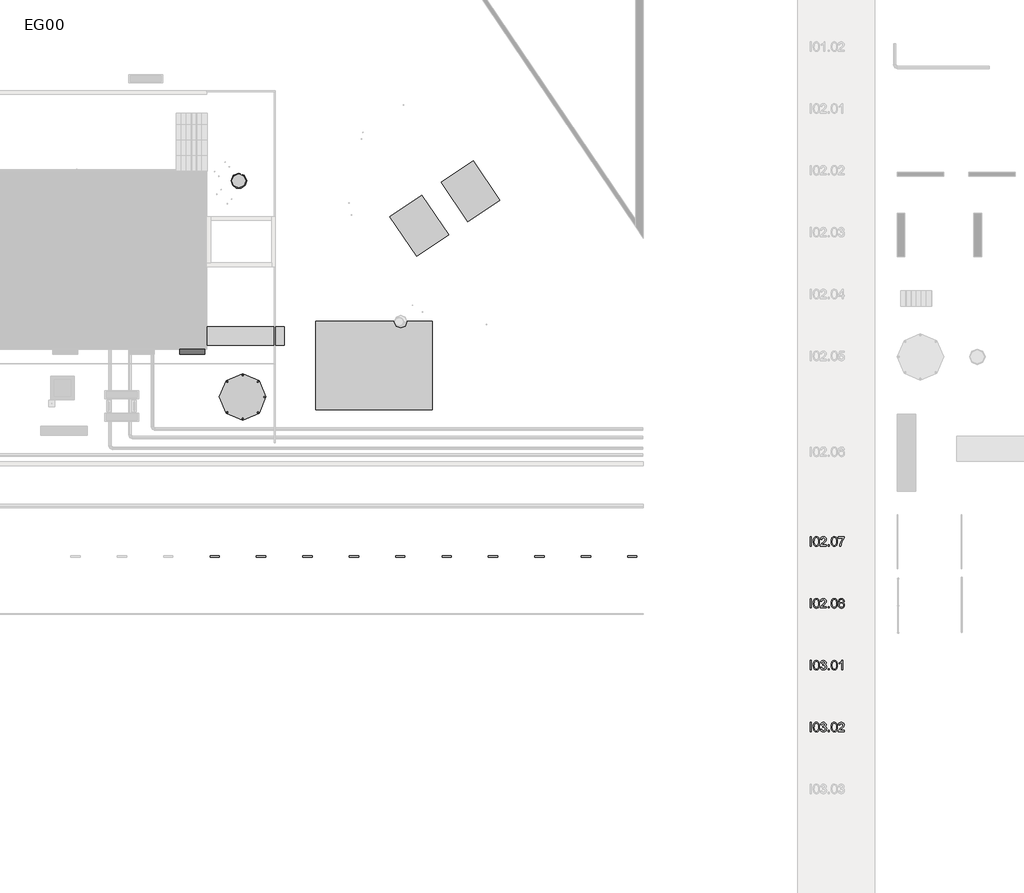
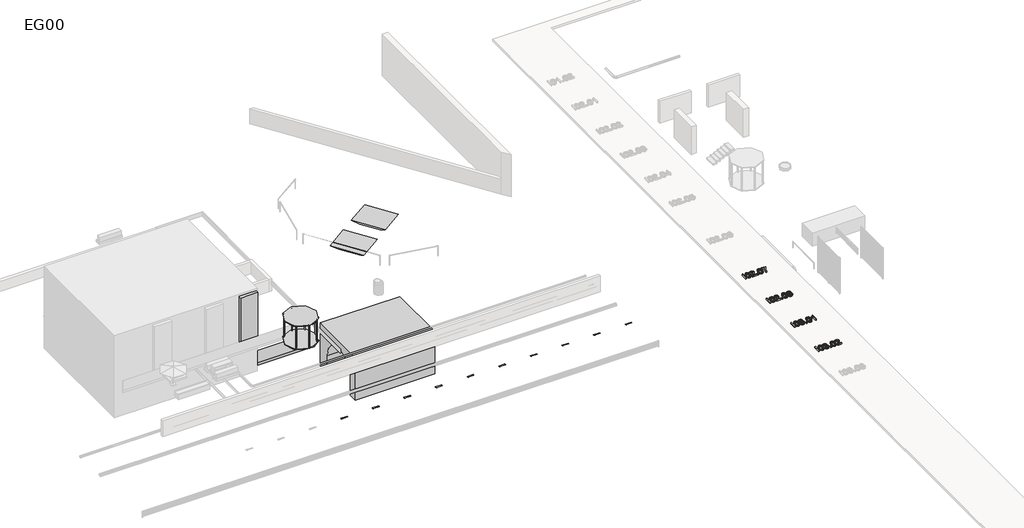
# One storey, part 9 of 11: 20 proxies, 1 geographic element.
"""IFC4 building model written with IfcOpenShell, lengths in millimetres."""

from ifc_helpers import new_model, si_unit, origin, origin_with_axes, place, context, project, spatial, polyline, outline, extrude, transform, mapped, element, save
from components import generic_models_e3d74de6, entourage_0a1c0cec, generic_models_ad2ae4fc, generic_models_97552da3, generic_models_fbec03f0, entourage_9fdb578f, geographic_element_9d9cddf6

model = new_model("IFC4")

# Units and contexts
model_context = context("Model", 3, world=origin())
ifc_project = project(units=[si_unit("LENGTHUNIT", "METRE", prefix="MILLI")], contexts=[model_context])

# Site, building, storey
site = spatial("IfcSite", under=ifc_project)
building = spatial("IfcBuilding", under=site)
storey = spatial("IfcBuildingStorey", under=building, Name="EG00", Elevation=0.0)

# Proxies
placement = place(None, origin())
generic_models_shape = generic_models_e3d74de6(model_context)
element("IfcBuildingElementProxy", 1, Name="Auffüllung : Auffüllung", ObjectType="Auffüllung : Auffüllung", at=placement, inside=storey, context=model_context, shape_type="MappedRepresentation", body=[
    mapped(generic_models_shape, transform((15651.6474378, -11344.4656906, 0.0), x_axis=(0.8290375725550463, 0.55919290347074, 0.0), y_axis=(-0.55919290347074, 0.8290375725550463, 0.0), z_axis=(0.0, 0.0, 1.0))),
])
element("IfcBuildingElementProxy", 2, Name="Auffüllung : Auffüllung", ObjectType="Auffüllung : Auffüllung", at=placement, inside=storey, context=model_context, shape_type="MappedRepresentation", body=[
    mapped(generic_models_shape, transform((18967.797728, -9107.6940768, 0.0), x_axis=(0.8290375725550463, 0.55919290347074, 0.0), y_axis=(-0.55919290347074, 0.8290375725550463, 0.0), z_axis=(0.0, 0.0, 1.0))),
])
entourage_shape = entourage_0a1c0cec(model_context)
element("IfcBuildingElementProxy", 3, Name="Pavillon, Unterstand, Schuppen und dgl. : Pavillon, Unterstand, Schuppen und dgl.", ObjectType="Pavillon, Unterstand, Schuppen und dgl. : Pavillon, Unterstand, Schuppen und dgl.", at=placement, inside=storey, context=model_context, shape_type="MappedRepresentation", body=[
    mapped(entourage_shape, transform((4395.2462772, -20427.6172052, 1020.0), x_axis=(1.0, 0.0, 0.0), y_axis=(0.0, 1.0, 0.0), z_axis=(0.0, 0.0, 1.0))),
])
generic_models_2_shape = generic_models_ad2ae4fc(model_context)
element("IfcBuildingElementProxy", 4, Name="Wasserbecken : Wasserbecken", ObjectType="Wasserbecken : Wasserbecken", at=placement, inside=storey, context=model_context, shape_type="MappedRepresentation", body=[
    mapped(generic_models_2_shape, transform((4153.1107384, -6458.9886736, 984.6257825), x_axis=(1.0, 0.0, 0.0), y_axis=(0.0, 1.0, 0.0), z_axis=(0.0, 0.0, 1.0))),
])
generic_models_3_shape = generic_models_97552da3(model_context)
element("IfcBuildingElementProxy", 5, Name="Stollen : Stollen", ObjectType="Stollen : Stollen", at=placement, inside=storey, context=model_context, shape_type="MappedRepresentation", body=[
    mapped(generic_models_3_shape, transform((16653.2462772, -21266.9886736, 0.0), x_axis=(1.0, 0.0, 0.0), y_axis=(0.0, 1.0, 0.0), z_axis=(0.0, 0.0, 1.0))),
])
generic_models_4_shape = generic_models_fbec03f0(model_context)
element("IfcBuildingElementProxy", 6, Name="Fluchtröhre : Fluchtröhre", ObjectType="Fluchtröhre : Fluchtröhre", at=placement, inside=storey, context=model_context, shape_type="MappedRepresentation", body=[
    mapped(generic_models_4_shape, transform((7773.9710847, -16470.697095, 1000.0), x_axis=(0.0, -1.0, 0.0), y_axis=(1.0, 0.0, 0.0), z_axis=(0.0, 0.0, 1.0))),
])
entourage_2_shape = entourage_9fdb578f(model_context)
element("IfcBuildingElementProxy", 7, Name="Bodenmarkierung : Belagsmarkierung", ObjectType="Bodenmarkierung : Belagsmarkierung", at=placement, inside=storey, context=model_context, shape_type="MappedRepresentation", body=[
    mapped(entourage_2_shape, transform((2591.2462772, -30730.6172052, -9.0), x_axis=(1.0, 0.0, 0.0), y_axis=(0.0, 1.0, 0.0), z_axis=(0.0, 0.0, 1.0))),
])
element("IfcBuildingElementProxy", 8, Name="Bodenmarkierung : Belagsmarkierung", ObjectType="Bodenmarkierung : Belagsmarkierung", at=placement, inside=storey, context=model_context, shape_type="MappedRepresentation", body=[
    mapped(entourage_2_shape, transform((5591.2462772, -30730.6172052, -9.0), x_axis=(1.0, 0.0, 0.0), y_axis=(0.0, 1.0, 0.0), z_axis=(0.0, 0.0, 1.0))),
])
element("IfcBuildingElementProxy", 9, Name="Bodenmarkierung : Belagsmarkierung", ObjectType="Bodenmarkierung : Belagsmarkierung", at=placement, inside=storey, context=model_context, shape_type="MappedRepresentation", body=[
    mapped(entourage_2_shape, transform((8591.2462772, -30730.6172052, -9.0), x_axis=(1.0, 0.0, 0.0), y_axis=(0.0, 1.0, 0.0), z_axis=(0.0, 0.0, 1.0))),
])
element("IfcBuildingElementProxy", 10, Name="Bodenmarkierung : Belagsmarkierung", ObjectType="Bodenmarkierung : Belagsmarkierung", at=placement, inside=storey, context=model_context, shape_type="MappedRepresentation", body=[
    mapped(entourage_2_shape, transform((11591.2462772, -30730.6172052, -9.0), x_axis=(1.0, 0.0, 0.0), y_axis=(0.0, 1.0, 0.0), z_axis=(0.0, 0.0, 1.0))),
])
element("IfcBuildingElementProxy", 11, Name="Bodenmarkierung : Belagsmarkierung", ObjectType="Bodenmarkierung : Belagsmarkierung", at=placement, inside=storey, context=model_context, shape_type="MappedRepresentation", body=[
    mapped(entourage_2_shape, transform((14591.2462772, -30730.6172052, -9.0), x_axis=(1.0, 0.0, 0.0), y_axis=(0.0, 1.0, 0.0), z_axis=(0.0, 0.0, 1.0))),
])
element("IfcBuildingElementProxy", 12, Name="Bodenmarkierung : Belagsmarkierung", ObjectType="Bodenmarkierung : Belagsmarkierung", at=placement, inside=storey, context=model_context, shape_type="MappedRepresentation", body=[
    mapped(entourage_2_shape, transform((17591.2462772, -30730.6172052, -9.0), x_axis=(1.0, 0.0, 0.0), y_axis=(0.0, 1.0, 0.0), z_axis=(0.0, 0.0, 1.0))),
])
element("IfcBuildingElementProxy", 13, Name="Bodenmarkierung : Belagsmarkierung", ObjectType="Bodenmarkierung : Belagsmarkierung", at=placement, inside=storey, context=model_context, shape_type="MappedRepresentation", body=[
    mapped(entourage_2_shape, transform((20591.2462772, -30730.6172052, -9.0), x_axis=(1.0, 0.0, 0.0), y_axis=(0.0, 1.0, 0.0), z_axis=(0.0, 0.0, 1.0))),
])
element("IfcBuildingElementProxy", 14, Name="Bodenmarkierung : Belagsmarkierung", ObjectType="Bodenmarkierung : Belagsmarkierung", at=placement, inside=storey, context=model_context, shape_type="MappedRepresentation", body=[
    mapped(entourage_2_shape, transform((23591.2462772, -30730.6172052, -9.0), x_axis=(1.0, 0.0, 0.0), y_axis=(0.0, 1.0, 0.0), z_axis=(0.0, 0.0, 1.0))),
])
element("IfcBuildingElementProxy", 15, Name="Bodenmarkierung : Belagsmarkierung", ObjectType="Bodenmarkierung : Belagsmarkierung", at=placement, inside=storey, context=model_context, shape_type="MappedRepresentation", body=[
    mapped(entourage_2_shape, transform((26591.2462772, -30730.6172052, -9.0), x_axis=(1.0, 0.0, 0.0), y_axis=(0.0, 1.0, 0.0), z_axis=(0.0, 0.0, 1.0))),
])
element("IfcBuildingElementProxy", 16, Name="Bodenmarkierung : Belagsmarkierung", ObjectType="Bodenmarkierung : Belagsmarkierung", at=placement, inside=storey, context=model_context, shape_type="MappedRepresentation", body=[
    mapped(entourage_2_shape, transform((29591.2462772, -30730.6172052, -9.0), x_axis=(1.0, 0.0, 0.0), y_axis=(0.0, 1.0, 0.0), z_axis=(0.0, 0.0, 1.0))),
])
element("IfcBuildingElementProxy", 17, Name="600mm Arial", ObjectType="600mm Arial", at=placement, inside=storey, context=model_context, shape_type="SweptSolid", body=[
    extrude(outline(polyline([(41098.4530284, -30070.0529019), (41098.4530284, -29467.315041), (41173.795261, -29467.315041), (41173.795261, -30070.0529019), (41098.4530284, -30070.0529019)])), origin_with_axes(), (0.0, 0.0, 1.0), 150.0),
    extrude(outline(polyline([(41296.226389, -29773.5400137), (41301.763013, -29677.0629605), (41308.6837931, -29636.1498841), (41318.3728851, -29600.1204412), (41330.7889025, -29568.6803262), (41345.8904584, -29541.5352335), (41363.6775528, -29518.6851631), (41384.1501859, -29500.1301149), (41407.3773353, -29485.7735201), (41433.4279791, -29475.5188095), (41462.3021172, -29469.3659831), (41493.9997496, -29467.315041), (41540.4264574, -29472.1710833), (41581.9971229, -29486.7392103), (41616.7619714, -29510.4492049), (41642.7712285, -29542.73085), (41662.416127, -29583.308234), (41678.0879, -29631.9054456), (41688.3518077, -29693.6176503), (41691.7731102, -29773.5400137), (41686.2916685, -29869.465244), (41679.4398663, -29910.2403646), (41669.8473433, -29946.2238223), (41657.527895, -29977.6777329), (41642.495317, -30004.8642123), (41624.7496092, -30027.7832606), (41604.2907718, -30046.4348778), (41581.0360312, -30060.8880417), (41554.9026139, -30071.2117301), (41525.8905201, -30077.4059432), (41493.9997496, -30079.4706809), (41452.5026606, -30075.8838315), (41415.7144611, -30065.1232831), (41383.6351511, -30047.1890359), (41356.2647306, -30022.0810897), (41329.9979562, -29976.6936485), (41311.2359744, -29920.1409888), (41299.9787854, -29852.4231106), (41296.226389, -29773.5400137)]), holes=[polyline([(41371.5686216, -29773.3928609), (41373.7759136, -29838.8896517), (41380.3977895, -29891.9060457), (41391.4342494, -29932.442043), (41406.8852932, -29960.4976437), (41425.5736985, -29979.5861207), (41446.3222431, -29993.2207472), (41469.1309268, -30001.401523), (41493.9997496, -30004.1284483), (41518.8685725, -30001.392326), (41541.6772562, -29993.183959), (41562.4258007, -29979.5033473), (41581.1142061, -29960.3504909), (41596.5652499, -29932.248905), (41607.6017097, -29891.7221047), (41614.2235857, -29838.77009), (41616.4308776, -29773.3928609), (41614.2971621, -29709.6297141), (41607.8960153, -29657.5468207), (41597.2274375, -29617.1441805), (41582.2914285, -29588.4217938), (41563.9157228, -29568.3998162), (41542.928055, -29554.0984036), (41519.328425, -29545.5175561), (41493.1168328, -29542.6572736), (41468.3767687, -29545.1772652), (41445.9543611, -29552.7372402), (41425.84961, -29565.3371986), (41408.0625156, -29582.9771402), (41392.096437, -29614.2471098), (41380.6920951, -29656.4063865), (41373.84949, -29709.4549702), (41371.5686216, -29773.3928609)])]), origin_with_axes(), (0.0, 0.0, 1.0), 150.0),
    extrude(outline(polyline([(42143.8265059, -29994.7106692), (42143.8265059, -30070.0529019), (41748.2797847, -30070.0529019), (41749.9352537, -30043.52861), (41756.3731886, -30018.1079641), (41774.9512293, -29977.512186), (41802.1377088, -29938.1304184), (41841.4642941, -29896.9092408), (41896.4626524, -29850.7952327), (41977.7645733, -29778.5799971), (42026.5457258, -29725.273896), (42040.773562, -29703.4952819), (42050.9363021, -29682.0109733), (42057.0339462, -29660.8209704), (42059.0664942, -29639.9252731), (42057.1489093, -29620.266579), (42051.3961546, -29602.1989745), (42041.8082301, -29585.7224596), (42028.3851358, -29570.8370344), (42011.8718328, -29558.508389), (41993.013282, -29549.7022138), (41971.8094835, -29544.4185086), (41948.2604373, -29542.6572736), (41923.4513952, -29544.3771219), (41901.2635124, -29549.5366669), (41881.6967888, -29558.1359085), (41864.7512244, -29570.1748468), (41851.0430215, -29585.2488116), (41841.1883826, -29602.9531326), (41835.1873075, -29623.2878099), (41833.0397964, -29646.2528434), (41757.6975638, -29636.8350643), (41764.1768854, -29597.9407404), (41775.9629048, -29563.9576411), (41793.055622, -29534.8857664), (41815.455037, -29510.7251164), (41842.646115, -29491.7332084), (41874.1138211, -29478.1675598), (41909.8581555, -29470.0281707), (41949.8791181, -29467.315041), (41990.2587655, -29470.3316733), (42026.1962379, -29479.3815704), (42057.6915353, -29494.4647322), (42084.7446575, -29515.5811587), (42106.4726878, -29541.1673515), (42121.9927095, -29569.659812), (42131.3047225, -29601.0585403), (42134.4087268, -29635.3635364), (42131.0610007, -29671.3975778), (42121.0178222, -29706.8062198), (42103.1939395, -29742.8218672), (42076.5041008, -29780.6769245), (42033.958548, -29825.8712276), (41968.5675234, -29883.9046123), (41881.8945253, -29956.3773654), (41847.902229, -29994.7106692), (42143.8265059, -29994.7106692)])), origin_with_axes(), (0.0, 0.0, 1.0), 150.0),
    extrude(outline(polyline([(42256.8398548, -30070.0529019), (42256.8398548, -29994.7106692), (42332.1820874, -29994.7106692), (42332.1820874, -30070.0529019), (42256.8398548, -30070.0529019)])), origin_with_axes(), (0.0, 0.0, 1.0), 150.0),
    extrude(outline(polyline([(42454.6132154, -29773.5400137), (42460.1498395, -29677.0629605), (42467.0706195, -29636.1498841), (42476.7597115, -29600.1204412), (42489.1757289, -29568.6803262), (42504.2772848, -29541.5352335), (42522.0643792, -29518.6851631), (42542.5370123, -29500.1301149), (42565.7641618, -29485.7735201), (42591.8148055, -29475.5188095), (42620.6889436, -29469.3659831), (42652.386576, -29467.315041), (42698.8132838, -29472.1710833), (42740.3839493, -29486.7392103), (42775.1487978, -29510.4492049), (42801.1580549, -29542.73085), (42820.8029534, -29583.308234), (42836.4747264, -29631.9054456), (42846.7386341, -29693.6176503), (42850.1599366, -29773.5400137), (42844.6784949, -29869.465244), (42837.8266928, -29910.2403646), (42828.2341697, -29946.2238223), (42815.9147214, -29977.6777329), (42800.8821434, -30004.8642123), (42783.1364357, -30027.7832606), (42762.6775982, -30046.4348778), (42739.4228576, -30060.8880417), (42713.2894403, -30071.2117301), (42684.2773465, -30077.4059432), (42652.386576, -30079.4706809), (42610.889487, -30075.8838315), (42574.1012875, -30065.1232831), (42542.0219775, -30047.1890359), (42514.651557, -30022.0810897), (42488.3847826, -29976.6936485), (42469.6228008, -29920.1409888), (42458.3656118, -29852.4231106), (42454.6132154, -29773.5400137)]), holes=[polyline([(42529.955448, -29773.3928609), (42532.16274, -29838.8896517), (42538.7846159, -29891.9060457), (42549.8210758, -29932.442043), (42565.2721196, -29960.4976437), (42583.9605249, -29979.5861207), (42604.7090695, -29993.2207472), (42627.5177532, -30001.401523), (42652.386576, -30004.1284483), (42677.2553989, -30001.392326), (42700.0640826, -29993.183959), (42720.8126271, -29979.5033473), (42739.5010325, -29960.3504909), (42754.9520763, -29932.248905), (42765.9885362, -29891.7221047), (42772.6104121, -29838.77009), (42774.817704, -29773.3928609), (42772.6839885, -29709.6297141), (42766.2828417, -29657.5468207), (42755.6142639, -29617.1441805), (42740.6782549, -29588.4217938), (42722.3025492, -29568.3998162), (42701.3148814, -29554.0984036), (42677.7152514, -29545.5175561), (42651.5036593, -29542.6572736), (42626.7635951, -29545.1772652), (42604.3411875, -29552.7372402), (42584.2364364, -29565.3371986), (42566.449342, -29582.9771402), (42550.4832634, -29614.2471098), (42539.0789215, -29656.4063865), (42532.2363164, -29709.4549702), (42529.955448, -29773.3928609)])]), origin_with_axes(), (0.0, 0.0, 1.0), 150.0),
    extrude(outline(polyline([(42916.0843902, -29552.0750527), (42916.0843902, -29476.73282), (43311.6311114, -29476.73282), (43311.6311114, -29537.6540784), (43255.2531956, -29609.0047914), (43199.4271029, -29699.7428855), (43150.1860978, -29801.5910159), (43130.2974774, -29853.5773403), (43113.5634452, -29906.2718376), (43095.6108038, -29984.5939144), (43085.6044136, -30070.0529019), (43010.2621809, -30070.0529019), (43018.4107671, -29992.3930127), (43040.2077754, -29900.0914201), (43056.0772849, -29850.7262549), (43075.0645944, -29802.2532035), (43097.1697038, -29754.6722659), (43122.3926131, -29707.9834422), (43177.6484888, -29622.763578), (43236.2888788, -29552.0750527), (42916.0843902, -29552.0750527)])), origin_with_axes(), (0.0, 0.0, 1.0), 150.0),
])
element("IfcBuildingElementProxy", 18, Name="600mm Arial", ObjectType="600mm Arial", at=placement, inside=storey, context=model_context, shape_type="SweptSolid", body=[
    extrude(outline(polyline([(41098.4530284, -34070.0529019), (41098.4530284, -33467.315041), (41173.795261, -33467.315041), (41173.795261, -34070.0529019), (41098.4530284, -34070.0529019)])), origin_with_axes(), (0.0, 0.0, 1.0), 150.0),
    extrude(outline(polyline([(41296.226389, -33773.5400137), (41301.763013, -33677.0629605), (41308.6837931, -33636.1498841), (41318.3728851, -33600.1204412), (41330.7889025, -33568.6803262), (41345.8904584, -33541.5352335), (41363.6775528, -33518.6851631), (41384.1501859, -33500.1301149), (41407.3773353, -33485.7735201), (41433.4279791, -33475.5188095), (41462.3021172, -33469.3659831), (41493.9997496, -33467.315041), (41540.4264574, -33472.1710833), (41581.9971229, -33486.7392103), (41616.7619714, -33510.4492049), (41642.7712285, -33542.73085), (41662.416127, -33583.308234), (41678.0879, -33631.9054456), (41688.3518077, -33693.6176503), (41691.7731102, -33773.5400137), (41686.2916685, -33869.465244), (41679.4398663, -33910.2403646), (41669.8473433, -33946.2238223), (41657.527895, -33977.6777329), (41642.495317, -34004.8642123), (41624.7496092, -34027.7832606), (41604.2907718, -34046.4348778), (41581.0360312, -34060.8880417), (41554.9026139, -34071.2117301), (41525.8905201, -34077.4059432), (41493.9997496, -34079.4706809), (41452.5026606, -34075.8838315), (41415.7144611, -34065.1232831), (41383.6351511, -34047.1890359), (41356.2647306, -34022.0810897), (41329.9979562, -33976.6936485), (41311.2359744, -33920.1409888), (41299.9787854, -33852.4231106), (41296.226389, -33773.5400137)]), holes=[polyline([(41371.5686216, -33773.3928609), (41373.7759136, -33838.8896517), (41380.3977895, -33891.9060457), (41391.4342494, -33932.442043), (41406.8852932, -33960.4976437), (41425.5736985, -33979.5861207), (41446.3222431, -33993.2207472), (41469.1309268, -34001.401523), (41493.9997496, -34004.1284483), (41518.8685725, -34001.392326), (41541.6772562, -33993.183959), (41562.4258007, -33979.5033473), (41581.1142061, -33960.3504909), (41596.5652499, -33932.248905), (41607.6017097, -33891.7221047), (41614.2235857, -33838.77009), (41616.4308776, -33773.3928609), (41614.2971621, -33709.6297141), (41607.8960153, -33657.5468207), (41597.2274375, -33617.1441805), (41582.2914285, -33588.4217938), (41563.9157228, -33568.3998162), (41542.928055, -33554.0984036), (41519.328425, -33545.5175561), (41493.1168328, -33542.6572736), (41468.3767687, -33545.1772652), (41445.9543611, -33552.7372402), (41425.84961, -33565.3371986), (41408.0625156, -33582.9771402), (41392.096437, -33614.2471098), (41380.6920951, -33656.4063865), (41373.84949, -33709.4549702), (41371.5686216, -33773.3928609)])]), origin_with_axes(), (0.0, 0.0, 1.0), 150.0),
    extrude(outline(polyline([(42143.8265059, -33994.7106692), (42143.8265059, -34070.0529019), (41748.2797847, -34070.0529019), (41749.9352537, -34043.52861), (41756.3731886, -34018.1079641), (41774.9512293, -33977.512186), (41802.1377088, -33938.1304184), (41841.4642941, -33896.9092408), (41896.4626524, -33850.7952327), (41977.7645733, -33778.5799971), (42026.5457258, -33725.273896), (42040.773562, -33703.4952819), (42050.9363021, -33682.0109733), (42057.0339462, -33660.8209704), (42059.0664942, -33639.9252731), (42057.1489093, -33620.266579), (42051.3961546, -33602.1989745), (42041.8082301, -33585.7224596), (42028.3851358, -33570.8370344), (42011.8718328, -33558.508389), (41993.013282, -33549.7022138), (41971.8094835, -33544.4185086), (41948.2604373, -33542.6572736), (41923.4513952, -33544.3771219), (41901.2635124, -33549.5366669), (41881.6967888, -33558.1359085), (41864.7512244, -33570.1748468), (41851.0430215, -33585.2488116), (41841.1883826, -33602.9531326), (41835.1873075, -33623.2878099), (41833.0397964, -33646.2528434), (41757.6975638, -33636.8350643), (41764.1768854, -33597.9407404), (41775.9629048, -33563.9576411), (41793.055622, -33534.8857664), (41815.455037, -33510.7251164), (41842.646115, -33491.7332084), (41874.1138211, -33478.1675598), (41909.8581555, -33470.0281707), (41949.8791181, -33467.315041), (41990.2587655, -33470.3316733), (42026.1962379, -33479.3815704), (42057.6915353, -33494.4647322), (42084.7446575, -33515.5811587), (42106.4726878, -33541.1673515), (42121.9927095, -33569.659812), (42131.3047225, -33601.0585403), (42134.4087268, -33635.3635364), (42131.0610007, -33671.3975778), (42121.0178222, -33706.8062198), (42103.1939395, -33742.8218672), (42076.5041008, -33780.6769245), (42033.958548, -33825.8712276), (41968.5675234, -33883.9046123), (41881.8945253, -33956.3773654), (41847.902229, -33994.7106692), (42143.8265059, -33994.7106692)])), origin_with_axes(), (0.0, 0.0, 1.0), 150.0),
    extrude(outline(polyline([(42256.8398548, -34070.0529019), (42256.8398548, -33994.7106692), (42332.1820874, -33994.7106692), (42332.1820874, -34070.0529019), (42256.8398548, -34070.0529019)])), origin_with_axes(), (0.0, 0.0, 1.0), 150.0),
    extrude(outline(polyline([(42454.6132154, -33773.5400137), (42460.1498395, -33677.0629605), (42467.0706195, -33636.1498841), (42476.7597115, -33600.1204412), (42489.1757289, -33568.6803262), (42504.2772848, -33541.5352335), (42522.0643792, -33518.6851631), (42542.5370123, -33500.1301149), (42565.7641618, -33485.7735201), (42591.8148055, -33475.5188095), (42620.6889436, -33469.3659831), (42652.386576, -33467.315041), (42698.8132838, -33472.1710833), (42740.3839493, -33486.7392103), (42775.1487978, -33510.4492049), (42801.1580549, -33542.73085), (42820.8029534, -33583.308234), (42836.4747264, -33631.9054456), (42846.7386341, -33693.6176503), (42850.1599366, -33773.5400137), (42844.6784949, -33869.465244), (42837.8266928, -33910.2403646), (42828.2341697, -33946.2238223), (42815.9147214, -33977.6777329), (42800.8821434, -34004.8642123), (42783.1364357, -34027.7832606), (42762.6775982, -34046.4348778), (42739.4228576, -34060.8880417), (42713.2894403, -34071.2117301), (42684.2773465, -34077.4059432), (42652.386576, -34079.4706809), (42610.889487, -34075.8838315), (42574.1012875, -34065.1232831), (42542.0219775, -34047.1890359), (42514.651557, -34022.0810897), (42488.3847826, -33976.6936485), (42469.6228008, -33920.1409888), (42458.3656118, -33852.4231106), (42454.6132154, -33773.5400137)]), holes=[polyline([(42529.955448, -33773.3928609), (42532.16274, -33838.8896517), (42538.7846159, -33891.9060457), (42549.8210758, -33932.442043), (42565.2721196, -33960.4976437), (42583.9605249, -33979.5861207), (42604.7090695, -33993.2207472), (42627.5177532, -34001.401523), (42652.386576, -34004.1284483), (42677.2553989, -34001.392326), (42700.0640826, -33993.183959), (42720.8126271, -33979.5033473), (42739.5010325, -33960.3504909), (42754.9520763, -33932.248905), (42765.9885362, -33891.7221047), (42772.6104121, -33838.77009), (42774.817704, -33773.3928609), (42772.6839885, -33709.6297141), (42766.2828417, -33657.5468207), (42755.6142639, -33617.1441805), (42740.6782549, -33588.4217938), (42722.3025492, -33568.3998162), (42701.3148814, -33554.0984036), (42677.7152514, -33545.5175561), (42651.5036593, -33542.6572736), (42626.7635951, -33545.1772652), (42604.3411875, -33552.7372402), (42584.2364364, -33565.3371986), (42566.449342, -33582.9771402), (42550.4832634, -33614.2471098), (42539.0789215, -33656.4063865), (42532.2363164, -33709.4549702), (42529.955448, -33773.3928609)])]), origin_with_axes(), (0.0, 0.0, 1.0), 150.0),
    extrude(outline(polyline([(43025.8603775, -33738.0761894), (42985.5221168, -33718.2105617), (42969.8641394, -33705.6289974), (42957.2135972, -33691.2815996), (42940.4933606, -33657.8411263), (42934.9199483, -33618.4409646), (42937.9549748, -33587.7136209), (42947.0600542, -33559.5430572), (42962.2351865, -33533.9292732), (42983.4803717, -33510.8722692), (43009.7747373, -33491.8159818), (43040.0974108, -33478.204348), (43074.4483921, -33470.0373677), (43112.8276812, -33467.315041), (43151.3909113, -33470.1017471), (43185.99941, -33478.4618654), (43216.6531773, -33492.395396), (43243.3522131, -33511.9023388), (43264.9836744, -33535.4099983), (43280.4347182, -33561.3456789), (43289.7053445, -33589.7093808), (43292.7955532, -33620.5011038), (43287.2957174, -33658.6320726), (43270.7962099, -33691.5023288), (43258.3755941, -33705.7531576), (43243.1130898, -33718.265744), (43204.062416, -33738.0761894), (43228.8254728, -33748.61141), (43250.4339415, -33761.970125), (43268.8878221, -33778.1523343), (43284.1871146, -33797.1580378), (43296.1938632, -33818.5641714), (43304.7701122, -33841.9476708), (43309.9158616, -33867.3085358), (43311.6311114, -33894.6467666), (43308.2282029, -33932.2259124), (43298.0194776, -33966.6780612), (43281.0049353, -33998.0032131), (43257.1845761, -34026.201368), (43227.8091988, -34049.5066924), (43194.1296021, -34066.1533527), (43156.1457861, -34076.1413489), (43113.8577508, -34079.4706809), (43071.5697154, -34076.1275533), (43033.5858994, -34066.0981704), (42999.9063028, -34049.3825323), (42970.5309255, -34025.9806388), (42946.7105663, -33997.5847473), (42929.696024, -33965.8871149), (42919.4872986, -33930.8877416), (42916.0843902, -33892.5866274), (42917.8686179, -33864.0021964), (42923.2213009, -33837.8457865), (42932.1424393, -33814.1173978), (42944.632033, -33792.8170303), (42960.4141706, -33774.33096), (42979.2129406, -33759.0454631), (43001.0283429, -33746.9605396), (43025.8603775, -33738.0761894)]), holes=[polyline([(43010.2621809, -33620.6482566), (43011.9314455, -33637.9203162), (43016.9392392, -33653.5369069), (43025.2855619, -33667.4980286), (43036.9704138, -33679.8036814), (43051.846642, -33689.8468598), (43069.7670937, -33697.0205588), (43090.7317689, -33701.3247781), (43114.7406676, -33702.7595179), (43138.1563566, -33701.3339751), (43158.6657778, -33697.057347), (43176.2689313, -33689.9296333), (43190.965817, -33679.9508342), (43202.5540998, -33667.9026988), (43210.8314447, -33654.5669765), (43215.7978517, -33639.9436672), (43217.4533206, -33624.0327709), (43215.7426694, -33607.5010737), (43210.6107155, -33592.339737), (43202.0574591, -33578.5487607), (43190.0829002, -33566.1281449), (43175.0549207, -33555.8596387), (43157.3414026, -33548.5249914), (43136.942346, -33544.124203), (43113.8577508, -33542.6572736), (43090.5938131, -33544.0920134), (43070.0981875, -33548.3962327), (43052.3708738, -33555.5699316), (43037.4118722, -33565.6131101), (43025.5338823, -33577.6612454), (43017.0496038, -33590.8498149), (43011.9590367, -33605.1788187), (43010.2621809, -33620.6482566)]), polyline([(42991.4266228, -33889.937877), (42994.5720139, -33918.7614313), (43004.008187, -33946.6652807), (43021.4273995, -33971.0006747), (43048.5219084, -33989.1188629), (43080.9691004, -34000.376052), (43114.446362, -34004.1284483), (43141.6880237, -34002.1556811), (43165.7291121, -33996.2373795), (43186.5696271, -33986.3735435), (43204.2095688, -33972.5641731), (43218.2442669, -33955.7105792), (43228.2690513, -33936.7140727), (43234.2839219, -33915.5746536), (43236.2888788, -33892.2923218), (43234.2195426, -33868.6375095), (43228.0115339, -33847.1164128), (43217.6648528, -33827.7290316), (43203.1794992, -33810.4753661), (43185.061311, -33796.3119092), (43163.8161257, -33786.1951544), (43139.4439436, -33780.1251015), (43111.9447644, -33778.1017505), (43085.1031743, -33780.0975103), (43061.3793842, -33786.0847898), (43040.7733939, -33796.0635889), (43023.2852036, -33810.0339077), (43009.3470745, -33827.0024647), (42999.391268, -33845.9759786), (42993.4177841, -33866.9544494), (42991.4266228, -33889.937877)])]), origin_with_axes(), (0.0, 0.0, 1.0), 150.0),
])
element("IfcBuildingElementProxy", 19, Name="600mm Arial", ObjectType="600mm Arial", at=placement, inside=storey, context=model_context, shape_type="SweptSolid", body=[
    extrude(outline(polyline([(41098.4530284, -38070.0529019), (41098.4530284, -37467.315041), (41173.795261, -37467.315041), (41173.795261, -38070.0529019), (41098.4530284, -38070.0529019)])), origin_with_axes(), (0.0, 0.0, 1.0), 150.0),
    extrude(outline(polyline([(41296.226389, -37773.5400137), (41301.763013, -37677.0629605), (41308.6837931, -37636.1498841), (41318.3728851, -37600.1204412), (41330.7889025, -37568.6803262), (41345.8904584, -37541.5352335), (41363.6775528, -37518.6851631), (41384.1501859, -37500.1301149), (41407.3773353, -37485.7735201), (41433.4279791, -37475.5188095), (41462.3021172, -37469.3659831), (41493.9997496, -37467.315041), (41540.4264574, -37472.1710833), (41581.9971229, -37486.7392103), (41616.7619714, -37510.4492049), (41642.7712285, -37542.73085), (41662.416127, -37583.308234), (41678.0879, -37631.9054456), (41688.3518077, -37693.6176503), (41691.7731102, -37773.5400137), (41686.2916685, -37869.465244), (41679.4398663, -37910.2403646), (41669.8473433, -37946.2238223), (41657.527895, -37977.6777329), (41642.495317, -38004.8642123), (41624.7496092, -38027.7832606), (41604.2907718, -38046.4348778), (41581.0360312, -38060.8880417), (41554.9026139, -38071.2117301), (41525.8905201, -38077.4059432), (41493.9997496, -38079.4706809), (41452.5026606, -38075.8838315), (41415.7144611, -38065.1232831), (41383.6351511, -38047.1890359), (41356.2647306, -38022.0810897), (41329.9979562, -37976.6936485), (41311.2359744, -37920.1409888), (41299.9787854, -37852.4231106), (41296.226389, -37773.5400137)]), holes=[polyline([(41371.5686216, -37773.3928609), (41373.7759136, -37838.8896517), (41380.3977895, -37891.9060457), (41391.4342494, -37932.442043), (41406.8852932, -37960.4976437), (41425.5736985, -37979.5861207), (41446.3222431, -37993.2207472), (41469.1309268, -38001.401523), (41493.9997496, -38004.1284483), (41518.8685725, -38001.392326), (41541.6772562, -37993.183959), (41562.4258007, -37979.5033473), (41581.1142061, -37960.3504909), (41596.5652499, -37932.248905), (41607.6017097, -37891.7221047), (41614.2235857, -37838.77009), (41616.4308776, -37773.3928609), (41614.2971621, -37709.6297141), (41607.8960153, -37657.5468207), (41597.2274375, -37617.1441805), (41582.2914285, -37588.4217938), (41563.9157228, -37568.3998162), (41542.928055, -37554.0984036), (41519.328425, -37545.5175561), (41493.1168328, -37542.6572736), (41468.3767687, -37545.1772652), (41445.9543611, -37552.7372402), (41425.84961, -37565.3371986), (41408.0625156, -37582.9771402), (41392.096437, -37614.2471098), (41380.6920951, -37656.4063865), (41373.84949, -37709.4549702), (41371.5686216, -37773.3928609)])]), origin_with_axes(), (0.0, 0.0, 1.0), 150.0),
    extrude(outline(polyline([(41757.6975638, -37909.9506576), (41833.0397964, -37900.5328785), (41849.9071859, -37947.8792913), (41861.279338, -37965.7859474), (41874.6104618, -37979.8482366), (41890.2040599, -37990.4708293), (41908.3636349, -37998.0583954), (41929.0891868, -38002.6109351), (41952.3807156, -38004.1284483), (41979.6775597, -38002.040718), (42004.0313477, -37995.777527), (42025.4420799, -37985.3388754), (42043.909756, -37970.7247632), (42058.7813857, -37953.0296392), (42069.4039783, -37933.3479525), (42075.7775338, -37911.6797029), (42077.9020524, -37888.0248906), (42075.7959279, -37865.496717), (42069.4775547, -37845.0010913), (42058.9469326, -37826.5380137), (42044.2040616, -37810.1074841), (42026.214632, -37796.6200104), (42005.9443341, -37786.9861007), (41983.3931678, -37781.2057548), (41958.5611331, -37779.2789729), (41934.759168, -37781.339112), (41905.7332786, -37787.5195296), (41914.1209881, -37712.177297), (41926.1875176, -37713.0602137), (41971.3266384, -37707.6523484), (42011.6832932, -37691.4287524), (42028.2931653, -37679.1598879), (42040.1573597, -37663.9847556), (42047.2758763, -37645.9033555), (42049.6487151, -37624.9156877), (42047.9288668, -37607.8781528), (42042.7693218, -37592.3765252), (42034.1700802, -37578.410805), (42022.1311419, -37565.9809921), (42007.3790739, -37555.7768652), (41990.6404431, -37548.4882032), (41951.2034932, -37542.6572736), (41930.5469192, -37544.1288016), (41911.692967, -37548.5433855), (41894.6416365, -37555.9010254), (41879.3929278, -37566.2017213), (41866.3239199, -37579.4454731), (41855.8116919, -37595.6322809), (41847.8562437, -37614.7621446), (41842.4575755, -37636.8350643), (41767.1153428, -37627.4172853), (41776.0456783, -37591.4476232), (41789.2986272, -37559.7637864), (41806.8741895, -37532.3657748), (41828.7723652, -37509.2535884), (41854.3033757, -37490.9054739), (41882.7774421, -37477.7996778), (41914.1945645, -37469.9362002), (41948.5547429, -37467.315041), (41995.9195497, -37472.483783), (42039.4215957, -37487.9900091), (42076.0994306, -37512.4541618), (42102.9916044, -37544.4966836), (42119.4911119, -37581.4136418), (42124.9909478, -37620.5011038), (42119.7670234, -37656.9214213), (42104.0952504, -37689.9572244), (42078.196358, -37718.1001971), (42042.2910752, -37739.842023), (42067.3990214, -37747.6963036), (42089.453547, -37758.8983103), (42108.4546521, -37773.4480432), (42124.4023366, -37791.3455023), (42137.020689, -37812.1492291), (42146.0337979, -37835.4177653), (42151.4416632, -37861.1511109), (42153.244285, -37889.3492658), (42149.6390414, -37927.5722051), (42138.8233108, -37962.7785121), (42120.797093, -37994.9681866), (42095.5603881, -38024.1412289), (42064.8146504, -38048.3478641), (42030.261334, -38065.6383179), (41991.9004389, -38076.0125902), (41949.7319653, -38079.4706809), (41911.6193906, -38076.5184279), (41876.8913302, -38067.6616689), (41845.5477842, -38052.9004038), (41817.5887526, -38032.2346328), (41794.1454724, -38006.8783662), (41776.3491809, -37978.0456149), (41764.199878, -37945.7363786), (41757.6975638, -37909.9506576)])), origin_with_axes(), (0.0, 0.0, 1.0), 150.0),
    extrude(outline(polyline([(42256.8398548, -38070.0529019), (42256.8398548, -37994.7106692), (42332.1820874, -37994.7106692), (42332.1820874, -38070.0529019), (42256.8398548, -38070.0529019)])), origin_with_axes(), (0.0, 0.0, 1.0), 150.0),
    extrude(outline(polyline([(42454.6132154, -37773.5400137), (42460.1498395, -37677.0629605), (42467.0706195, -37636.1498841), (42476.7597115, -37600.1204412), (42489.1757289, -37568.6803262), (42504.2772848, -37541.5352335), (42522.0643792, -37518.6851631), (42542.5370123, -37500.1301149), (42565.7641618, -37485.7735201), (42591.8148055, -37475.5188095), (42620.6889436, -37469.3659831), (42652.386576, -37467.315041), (42698.8132838, -37472.1710833), (42740.3839493, -37486.7392103), (42775.1487978, -37510.4492049), (42801.1580549, -37542.73085), (42820.8029534, -37583.308234), (42836.4747264, -37631.9054456), (42846.7386341, -37693.6176503), (42850.1599366, -37773.5400137), (42844.6784949, -37869.465244), (42837.8266928, -37910.2403646), (42828.2341697, -37946.2238223), (42815.9147214, -37977.6777329), (42800.8821434, -38004.8642123), (42783.1364357, -38027.7832606), (42762.6775982, -38046.4348778), (42739.4228576, -38060.8880417), (42713.2894403, -38071.2117301), (42684.2773465, -38077.4059432), (42652.386576, -38079.4706809), (42610.889487, -38075.8838315), (42574.1012875, -38065.1232831), (42542.0219775, -38047.1890359), (42514.651557, -38022.0810897), (42488.3847826, -37976.6936485), (42469.6228008, -37920.1409888), (42458.3656118, -37852.4231106), (42454.6132154, -37773.5400137)]), holes=[polyline([(42529.955448, -37773.3928609), (42532.16274, -37838.8896517), (42538.7846159, -37891.9060457), (42549.8210758, -37932.442043), (42565.2721196, -37960.4976437), (42583.9605249, -37979.5861207), (42604.7090695, -37993.2207472), (42627.5177532, -38001.401523), (42652.386576, -38004.1284483), (42677.2553989, -38001.392326), (42700.0640826, -37993.183959), (42720.8126271, -37979.5033473), (42739.5010325, -37960.3504909), (42754.9520763, -37932.248905), (42765.9885362, -37891.7221047), (42772.6104121, -37838.77009), (42774.817704, -37773.3928609), (42772.6839885, -37709.6297141), (42766.2828417, -37657.5468207), (42755.6142639, -37617.1441805), (42740.6782549, -37588.4217938), (42722.3025492, -37568.3998162), (42701.3148814, -37554.0984036), (42677.7152514, -37545.5175561), (42651.5036593, -37542.6572736), (42626.7635951, -37545.1772652), (42604.3411875, -37552.7372402), (42584.2364364, -37565.3371986), (42566.449342, -37582.9771402), (42550.4832634, -37614.2471098), (42539.0789215, -37656.4063865), (42532.2363164, -37709.4549702), (42529.955448, -37773.3928609)])]), origin_with_axes(), (0.0, 0.0, 1.0), 150.0),
    extrude(outline(polyline([(43198.6177625, -38070.0529019), (43123.2755299, -38070.0529019), (43123.2755299, -37600.3411704), (43091.8216193, -37625.7802104), (43051.9064228, -37651.1824622), (43010.0046636, -37673.3841406), (42972.5910646, -37689.2214605), (42972.5910646, -37617.9995062), (43031.7648836, -37585.8098316), (43083.0292396, -37547.5133159), (43123.4410768, -37506.788779), (43150.0573391, -37467.315041), (43198.6177625, -37467.315041), (43198.6177625, -38070.0529019)])), origin_with_axes(), (0.0, 0.0, 1.0), 150.0),
])
element("IfcBuildingElementProxy", 20, Name="600mm Arial", ObjectType="600mm Arial", at=placement, inside=storey, context=model_context, shape_type="SweptSolid", body=[
    extrude(outline(polyline([(41098.4530284, -42070.0529019), (41098.4530284, -41467.315041), (41173.795261, -41467.315041), (41173.795261, -42070.0529019), (41098.4530284, -42070.0529019)])), origin_with_axes(), (0.0, 0.0, 1.0), 150.0),
    extrude(outline(polyline([(41296.226389, -41773.5400137), (41301.763013, -41677.0629605), (41308.6837931, -41636.1498841), (41318.3728851, -41600.1204412), (41330.7889025, -41568.6803262), (41345.8904584, -41541.5352335), (41363.6775528, -41518.6851631), (41384.1501859, -41500.1301149), (41407.3773353, -41485.7735201), (41433.4279791, -41475.5188095), (41462.3021172, -41469.3659831), (41493.9997496, -41467.315041), (41540.4264574, -41472.1710833), (41581.9971229, -41486.7392103), (41616.7619714, -41510.4492049), (41642.7712285, -41542.73085), (41662.416127, -41583.308234), (41678.0879, -41631.9054456), (41688.3518077, -41693.6176503), (41691.7731102, -41773.5400137), (41686.2916685, -41869.465244), (41679.4398663, -41910.2403646), (41669.8473433, -41946.2238223), (41657.527895, -41977.6777329), (41642.495317, -42004.8642123), (41624.7496092, -42027.7832606), (41604.2907718, -42046.4348778), (41581.0360312, -42060.8880417), (41554.9026139, -42071.2117301), (41525.8905201, -42077.4059432), (41493.9997496, -42079.4706809), (41452.5026606, -42075.8838315), (41415.7144611, -42065.1232831), (41383.6351511, -42047.1890359), (41356.2647306, -42022.0810897), (41329.9979562, -41976.6936485), (41311.2359744, -41920.1409888), (41299.9787854, -41852.4231106), (41296.226389, -41773.5400137)]), holes=[polyline([(41371.5686216, -41773.3928609), (41373.7759136, -41838.8896517), (41380.3977895, -41891.9060457), (41391.4342494, -41932.442043), (41406.8852932, -41960.4976437), (41425.5736985, -41979.5861207), (41446.3222431, -41993.2207472), (41469.1309268, -42001.401523), (41493.9997496, -42004.1284483), (41518.8685725, -42001.392326), (41541.6772562, -41993.183959), (41562.4258007, -41979.5033473), (41581.1142061, -41960.3504909), (41596.5652499, -41932.248905), (41607.6017097, -41891.7221047), (41614.2235857, -41838.77009), (41616.4308776, -41773.3928609), (41614.2971621, -41709.6297141), (41607.8960153, -41657.5468207), (41597.2274375, -41617.1441805), (41582.2914285, -41588.4217938), (41563.9157228, -41568.3998162), (41542.928055, -41554.0984036), (41519.328425, -41545.5175561), (41493.1168328, -41542.6572736), (41468.3767687, -41545.1772652), (41445.9543611, -41552.7372402), (41425.84961, -41565.3371986), (41408.0625156, -41582.9771402), (41392.096437, -41614.2471098), (41380.6920951, -41656.4063865), (41373.84949, -41709.4549702), (41371.5686216, -41773.3928609)])]), origin_with_axes(), (0.0, 0.0, 1.0), 150.0),
    extrude(outline(polyline([(41757.6975638, -41909.9506576), (41833.0397964, -41900.5328785), (41849.9071859, -41947.8792913), (41861.279338, -41965.7859474), (41874.6104618, -41979.8482366), (41890.2040599, -41990.4708293), (41908.3636349, -41998.0583954), (41929.0891868, -42002.6109351), (41952.3807156, -42004.1284483), (41979.6775597, -42002.040718), (42004.0313477, -41995.777527), (42025.4420799, -41985.3388754), (42043.909756, -41970.7247632), (42058.7813857, -41953.0296392), (42069.4039783, -41933.3479525), (42075.7775338, -41911.6797029), (42077.9020524, -41888.0248906), (42075.7959279, -41865.496717), (42069.4775547, -41845.0010913), (42058.9469326, -41826.5380137), (42044.2040616, -41810.1074841), (42026.214632, -41796.6200104), (42005.9443341, -41786.9861007), (41983.3931678, -41781.2057548), (41958.5611331, -41779.2789729), (41934.759168, -41781.339112), (41905.7332786, -41787.5195296), (41914.1209881, -41712.177297), (41926.1875176, -41713.0602137), (41971.3266384, -41707.6523484), (42011.6832932, -41691.4287524), (42028.2931653, -41679.1598879), (42040.1573597, -41663.9847556), (42047.2758763, -41645.9033555), (42049.6487151, -41624.9156877), (42047.9288668, -41607.8781528), (42042.7693218, -41592.3765252), (42034.1700802, -41578.410805), (42022.1311419, -41565.9809921), (42007.3790739, -41555.7768652), (41990.6404431, -41548.4882032), (41951.2034932, -41542.6572736), (41930.5469192, -41544.1288016), (41911.692967, -41548.5433855), (41894.6416365, -41555.9010254), (41879.3929278, -41566.2017213), (41866.3239199, -41579.4454731), (41855.8116919, -41595.6322809), (41847.8562437, -41614.7621446), (41842.4575755, -41636.8350643), (41767.1153428, -41627.4172853), (41776.0456783, -41591.4476232), (41789.2986272, -41559.7637864), (41806.8741895, -41532.3657748), (41828.7723652, -41509.2535884), (41854.3033757, -41490.9054739), (41882.7774421, -41477.7996778), (41914.1945645, -41469.9362002), (41948.5547429, -41467.315041), (41995.9195497, -41472.483783), (42039.4215957, -41487.9900091), (42076.0994306, -41512.4541618), (42102.9916044, -41544.4966836), (42119.4911119, -41581.4136418), (42124.9909478, -41620.5011038), (42119.7670234, -41656.9214213), (42104.0952504, -41689.9572244), (42078.196358, -41718.1001971), (42042.2910752, -41739.842023), (42067.3990214, -41747.6963036), (42089.453547, -41758.8983103), (42108.4546521, -41773.4480432), (42124.4023366, -41791.3455023), (42137.020689, -41812.1492291), (42146.0337979, -41835.4177653), (42151.4416632, -41861.1511109), (42153.244285, -41889.3492658), (42149.6390414, -41927.5722051), (42138.8233108, -41962.7785121), (42120.797093, -41994.9681866), (42095.5603881, -42024.1412289), (42064.8146504, -42048.3478641), (42030.261334, -42065.6383179), (41991.9004389, -42076.0125902), (41949.7319653, -42079.4706809), (41911.6193906, -42076.5184279), (41876.8913302, -42067.6616689), (41845.5477842, -42052.9004038), (41817.5887526, -42032.2346328), (41794.1454724, -42006.8783662), (41776.3491809, -41978.0456149), (41764.199878, -41945.7363786), (41757.6975638, -41909.9506576)])), origin_with_axes(), (0.0, 0.0, 1.0), 150.0),
    extrude(outline(polyline([(42256.8398548, -42070.0529019), (42256.8398548, -41994.7106692), (42332.1820874, -41994.7106692), (42332.1820874, -42070.0529019), (42256.8398548, -42070.0529019)])), origin_with_axes(), (0.0, 0.0, 1.0), 150.0),
    extrude(outline(polyline([(42454.6132154, -41773.5400137), (42460.1498395, -41677.0629605), (42467.0706195, -41636.1498841), (42476.7597115, -41600.1204412), (42489.1757289, -41568.6803262), (42504.2772848, -41541.5352335), (42522.0643792, -41518.6851631), (42542.5370123, -41500.1301149), (42565.7641618, -41485.7735201), (42591.8148055, -41475.5188095), (42620.6889436, -41469.3659831), (42652.386576, -41467.315041), (42698.8132838, -41472.1710833), (42740.3839493, -41486.7392103), (42775.1487978, -41510.4492049), (42801.1580549, -41542.73085), (42820.8029534, -41583.308234), (42836.4747264, -41631.9054456), (42846.7386341, -41693.6176503), (42850.1599366, -41773.5400137), (42844.6784949, -41869.465244), (42837.8266928, -41910.2403646), (42828.2341697, -41946.2238223), (42815.9147214, -41977.6777329), (42800.8821434, -42004.8642123), (42783.1364357, -42027.7832606), (42762.6775982, -42046.4348778), (42739.4228576, -42060.8880417), (42713.2894403, -42071.2117301), (42684.2773465, -42077.4059432), (42652.386576, -42079.4706809), (42610.889487, -42075.8838315), (42574.1012875, -42065.1232831), (42542.0219775, -42047.1890359), (42514.651557, -42022.0810897), (42488.3847826, -41976.6936485), (42469.6228008, -41920.1409888), (42458.3656118, -41852.4231106), (42454.6132154, -41773.5400137)]), holes=[polyline([(42529.955448, -41773.3928609), (42532.16274, -41838.8896517), (42538.7846159, -41891.9060457), (42549.8210758, -41932.442043), (42565.2721196, -41960.4976437), (42583.9605249, -41979.5861207), (42604.7090695, -41993.2207472), (42627.5177532, -42001.401523), (42652.386576, -42004.1284483), (42677.2553989, -42001.392326), (42700.0640826, -41993.183959), (42720.8126271, -41979.5033473), (42739.5010325, -41960.3504909), (42754.9520763, -41932.248905), (42765.9885362, -41891.7221047), (42772.6104121, -41838.77009), (42774.817704, -41773.3928609), (42772.6839885, -41709.6297141), (42766.2828417, -41657.5468207), (42755.6142639, -41617.1441805), (42740.6782549, -41588.4217938), (42722.3025492, -41568.3998162), (42701.3148814, -41554.0984036), (42677.7152514, -41545.5175561), (42651.5036593, -41542.6572736), (42626.7635951, -41545.1772652), (42604.3411875, -41552.7372402), (42584.2364364, -41565.3371986), (42566.449342, -41582.9771402), (42550.4832634, -41614.2471098), (42539.0789215, -41656.4063865), (42532.2363164, -41709.4549702), (42529.955448, -41773.3928609)])]), origin_with_axes(), (0.0, 0.0, 1.0), 150.0),
    extrude(outline(polyline([(43302.2133323, -41994.7106692), (43302.2133323, -42070.0529019), (42906.6666111, -42070.0529019), (42908.3220801, -42043.52861), (42914.760015, -42018.1079641), (42933.3380558, -41977.512186), (42960.5245352, -41938.1304184), (42999.8511205, -41896.9092408), (43054.8494788, -41850.7952327), (43136.1513997, -41778.5799971), (43184.9325523, -41725.273896), (43199.1603884, -41703.4952819), (43209.3231285, -41682.0109733), (43215.4207726, -41660.8209704), (43217.4533206, -41639.9252731), (43215.5357357, -41620.266579), (43209.782981, -41602.1989745), (43200.1950565, -41585.7224596), (43186.7719622, -41570.8370344), (43170.2586592, -41558.508389), (43151.4001084, -41549.7022138), (43130.1963099, -41544.4185086), (43106.6472637, -41542.6572736), (43081.8382216, -41544.3771219), (43059.6503388, -41549.5366669), (43040.0836152, -41558.1359085), (43023.1380508, -41570.1748468), (43009.4298479, -41585.2488116), (42999.575209, -41602.9531326), (42993.5741339, -41623.2878099), (42991.4266228, -41646.2528434), (42916.0843902, -41636.8350643), (42922.5637118, -41597.9407404), (42934.3497312, -41563.9576411), (42951.4424484, -41534.8857664), (42973.8418634, -41510.7251164), (43001.0329414, -41491.7332084), (43032.5006476, -41478.1675598), (43068.2449819, -41470.0281707), (43108.2659445, -41467.315041), (43148.645592, -41470.3316733), (43184.5830644, -41479.3815704), (43216.0783617, -41494.4647322), (43243.1314839, -41515.5811587), (43264.8595142, -41541.1673515), (43280.3795359, -41569.659812), (43289.6915489, -41601.0585403), (43292.7955532, -41635.3635364), (43289.4478271, -41671.3975778), (43279.4046486, -41706.8062198), (43261.580766, -41742.8218672), (43234.8909272, -41780.6769245), (43192.3453745, -41825.8712276), (43126.9543498, -41883.9046123), (43040.2813518, -41956.3773654), (43006.2890554, -41994.7106692), (43302.2133323, -41994.7106692)])), origin_with_axes(), (0.0, 0.0, 1.0), 150.0),
])

# Geographic element
geographic_element_shape = geographic_element_9d9cddf6(model_context)
element("IfcGeographicElement", 21, ObjectType="Begrünung systemgestützt : Begrünung systemgestützt", at=placement, inside=storey, context=model_context, shape_type="MappedRepresentation", body=[
    mapped(geographic_element_shape, transform((1136.180858, -17353.1176535, 0.0), x_axis=(1.0, 0.0, 0.0), y_axis=(0.0, 1.0, 0.0), z_axis=(0.0, 0.0, 1.0))),
])

save(model, "model.ifc")
